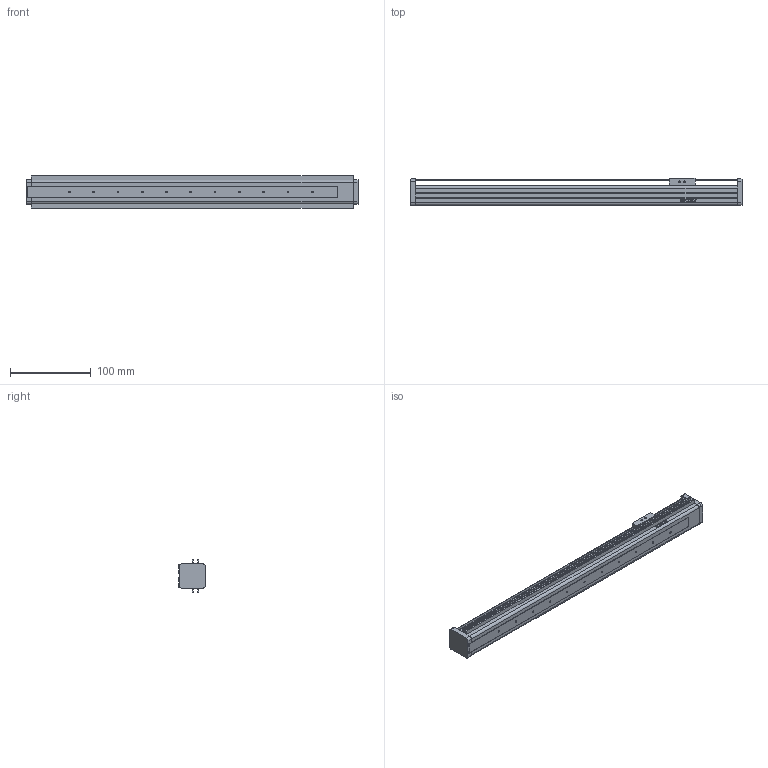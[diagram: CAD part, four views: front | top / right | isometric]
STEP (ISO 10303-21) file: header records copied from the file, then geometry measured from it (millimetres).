
FILE_DESCRIPTION(/* description */ (''),/* implementation_level */ '2;1');
FILE_NAME(/* name */ 'D:\混合母檔20191031\混和母檔\混和母檔\bin\Debug\Download\3D\KE301C-300AF0\KE301C-300AF0.stp',/* time_stamp */ '2019-11-04T13:31:27+08:00',/* author */ ('user'),/* organization */ (''),/* preprocessor_version */ 'ST-DEVELOPER v16.13',/* originating_system */ 'Autodesk Inventor 2018',/* authorisation */ '');
FILE_SCHEMA (('AUTOMOTIVE_DESIGN { 1 0 10303 214 3 1 1 }'));
Length unit declared in the file: millimetre
Products named in the file (3): KE301C-300AF0; KE30-F0-BP; KE30-SL
Assembly tree (2 placements, depth 2):
  KE301C-300AF0
    KE30-F0-BP
    KE30-SL
Bounding box: 410 x 33.67 x 39.6 mm (x, y, z)
Volume: 311289.7 mm3; surface area: 82163.4 mm2
Topology: 2 solids, 6 shells, 467 faces, 1272 edges, 833 vertices
Faces by surface type: plane 264, bspline 114, cylinder 58, cone 23, torus 8
Full cylindrical faces by diameter (mm): 2.013 x4, 2.113 x11, 2.184 x4, 2.459 x4, 2.5 x4, 3 x4, 4 x1, 4.166 x4, 5 x2, 6 x2, 18 x1, 22 x1
Entity records: 18695 total; most frequent: CARTESIAN_POINT 7952, ORIENTED_EDGE 2330, DIRECTION 1762, EDGE_CURVE 1165, VERTEX_POINT 799, LINE 784, VECTOR 784, EDGE_LOOP 572
